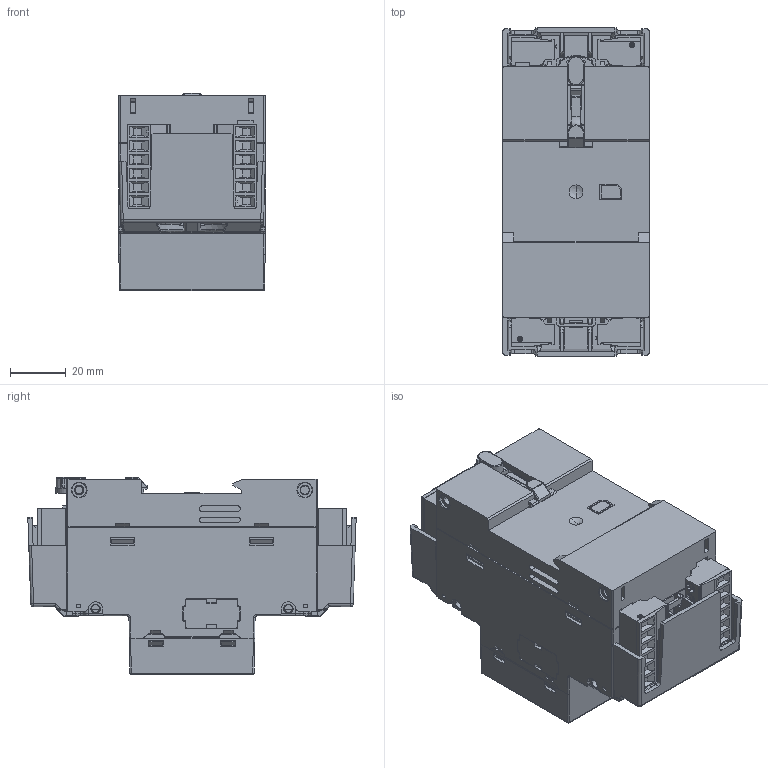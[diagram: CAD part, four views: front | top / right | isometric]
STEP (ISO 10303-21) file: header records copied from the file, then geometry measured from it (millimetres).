
FILE_DESCRIPTION((''),'2;1');
FILE_NAME('ASM0002','2021-10-01T08:10:07',('esors'),(''),'CREO PARAMETRIC BY PTC INC, 2018260','CREO PARAMETRIC BY PTC INC, 2018260','');
FILE_SCHEMA(('AUTOMOTIVE_DESIGN { 1 0 10303 214 1 1 1 1 }'));
Products named in the file (1): ASM0002
Bounding box: 52.5 x 117.85 x 70.7 mm (x, y, z)
Volume: 287283.5 mm3; surface area: 71475.9 mm2
Topology: 1 solids, 41 shells, 5231 faces, 14781 edges, 9740 vertices
Faces by surface type: plane 3788, cylinder 778, extrusion 373, cone 150, torus 74, bspline 56, sphere 12
Entity records: 177108 total; most frequent: CARTESIAN_POINT 42969, ORIENTED_EDGE 29538, DIRECTION 23944, EDGE_CURVE 14769, VECTOR 11244, LINE 10871, VERTEX_POINT 9740, AXIS2_PLACEMENT_3D 6350
